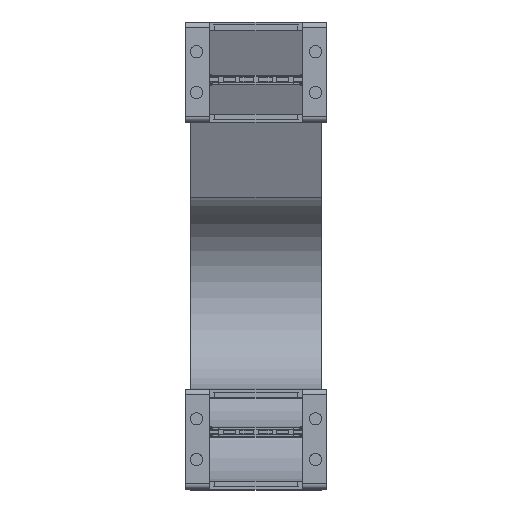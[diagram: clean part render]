
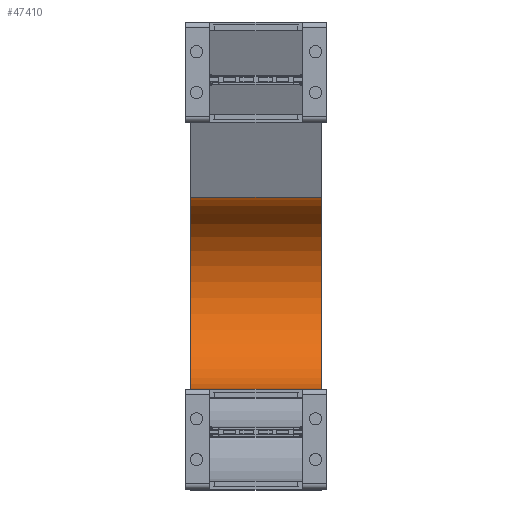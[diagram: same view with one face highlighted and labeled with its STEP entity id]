
A CAD part, top view. The second image highlights one B-rep face of the part: STEP entity #47410.
In plain terms, the highlighted cylindrical face has radius 52 mm (diameter 104 mm), a partial arc.
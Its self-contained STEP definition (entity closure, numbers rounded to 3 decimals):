
#46562=DIRECTION('',(-1.,0.,0.));
#46563=VECTOR('',#46562,70.);
#46564=CARTESIAN_POINT('',(35.,54.,-500.));
#46565=LINE('',#46564,#46563);
#46576=DIRECTION('',(-1.,0.,0.));
#46577=VECTOR('',#46576,70.);
#46578=CARTESIAN_POINT('',(35.,157.747,-505.126));
#46579=LINE('',#46578,#46577);
#46583=CARTESIAN_POINT('',(35.,106.,-500.));
#46584=DIRECTION('',(-1.,0.,0.));
#46585=DIRECTION('',(0.,0.995,-0.099));
#46586=AXIS2_PLACEMENT_3D('',#46583,#46584,#46585);
#46662=CARTESIAN_POINT('',(-35.,106.,-500.));
#46663=DIRECTION('',(-1.,0.,0.));
#46664=DIRECTION('',(0.,0.995,-0.099));
#46665=AXIS2_PLACEMENT_3D('',#46662,#46663,#46664);
#46784=CARTESIAN_POINT('',(35.,157.747,-505.126));
#46785=CARTESIAN_POINT('',(-35.,157.747,-505.126));
#46786=VERTEX_POINT('',#46784);
#46787=VERTEX_POINT('',#46785);
#46808=CARTESIAN_POINT('',(35.,54.,-500.));
#46809=CARTESIAN_POINT('',(-35.,54.,-500.));
#46810=VERTEX_POINT('',#46808);
#46811=VERTEX_POINT('',#46809);
#47396=CARTESIAN_POINT('',(1.,106.,-500.));
#47397=DIRECTION('',(-1.,0.,0.));
#47398=DIRECTION('',(0.,-0.995,0.099));
#47399=AXIS2_PLACEMENT_3D('',#47396,#47397,#47398);
#47400=CYLINDRICAL_SURFACE('',#47399,52.);
#47402=ORIENTED_EDGE('',*,*,#47401,.F.);
#47404=ORIENTED_EDGE('',*,*,#47403,.T.);
#47405=ORIENTED_EDGE('',*,*,#47379,.T.);
#47407=ORIENTED_EDGE('',*,*,#47406,.F.);
#47408=EDGE_LOOP('',(#47402,#47404,#47405,#47407));
#47409=FACE_OUTER_BOUND('',#47408,.F.);
#46587=CIRCLE('',#46586,52.);
#46666=CIRCLE('',#46665,52.);
#47379=EDGE_CURVE('',#46810,#46811,#46565,.T.);
#47401=EDGE_CURVE('',#46786,#46787,#46579,.T.);
#47403=EDGE_CURVE('',#46786,#46810,#46587,.T.);
#47406=EDGE_CURVE('',#46787,#46811,#46666,.T.);
#47410=ADVANCED_FACE('',(#47409),#47400,.F.);
